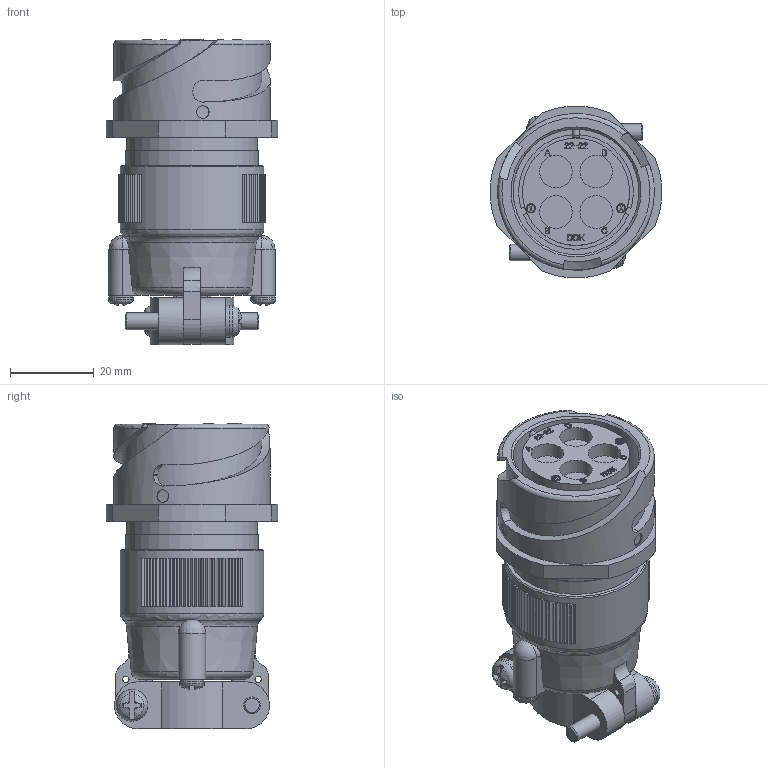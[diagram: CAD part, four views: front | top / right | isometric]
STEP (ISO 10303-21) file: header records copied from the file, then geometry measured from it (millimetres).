
FILE_DESCRIPTION (( 'STEP AP203' ), '1' );
FILE_NAME ('DCA3101E22-22S-D(R1).STEP', '2021-06-16T02:24:40', ( '' ), ( '' ), 'SwSTEP 2.0', 'SolidWorks 2018', '' );
FILE_SCHEMA (( 'CONFIG_CONTROL_DESIGN' ));
Length unit declared in the file: millimetre
Products named in the file (1): DCA3101E22-22S-D(R1)
Bounding box: 40.97 x 40.97 x 73 mm (x, y, z)
Volume: 51540.2 mm3; surface area: 21381.1 mm2
Topology: 1 solids, 1 shells, 982 faces, 2490 edges, 1560 vertices
Faces by surface type: plane 591, bspline 185, cylinder 152, cone 27, torus 17, sphere 10
Full cylindrical faces by diameter (mm): 1.5 x2, 1.8 x2, 2.2 x2, 3 x4, 4 x2, 5 x4, 5.7 x2, 6.5 x4, 6.7 x8, 7.8 x8, 19.1 x1, 22.3 x1, 24.8 x1, 25.6 x1, 30.03 x1, 31.3 x1, 31.71 x1, 34.2 x1, 37.4 x1
Entity records: 35889 total; most frequent: CARTESIAN_POINT 13802, ORIENTED_EDGE 4744, DIRECTION 4067, EDGE_CURVE 2372, VERTEX_POINT 1528, VECTOR 1363, LINE 1363, AXIS2_PLACEMENT_3D 1352
